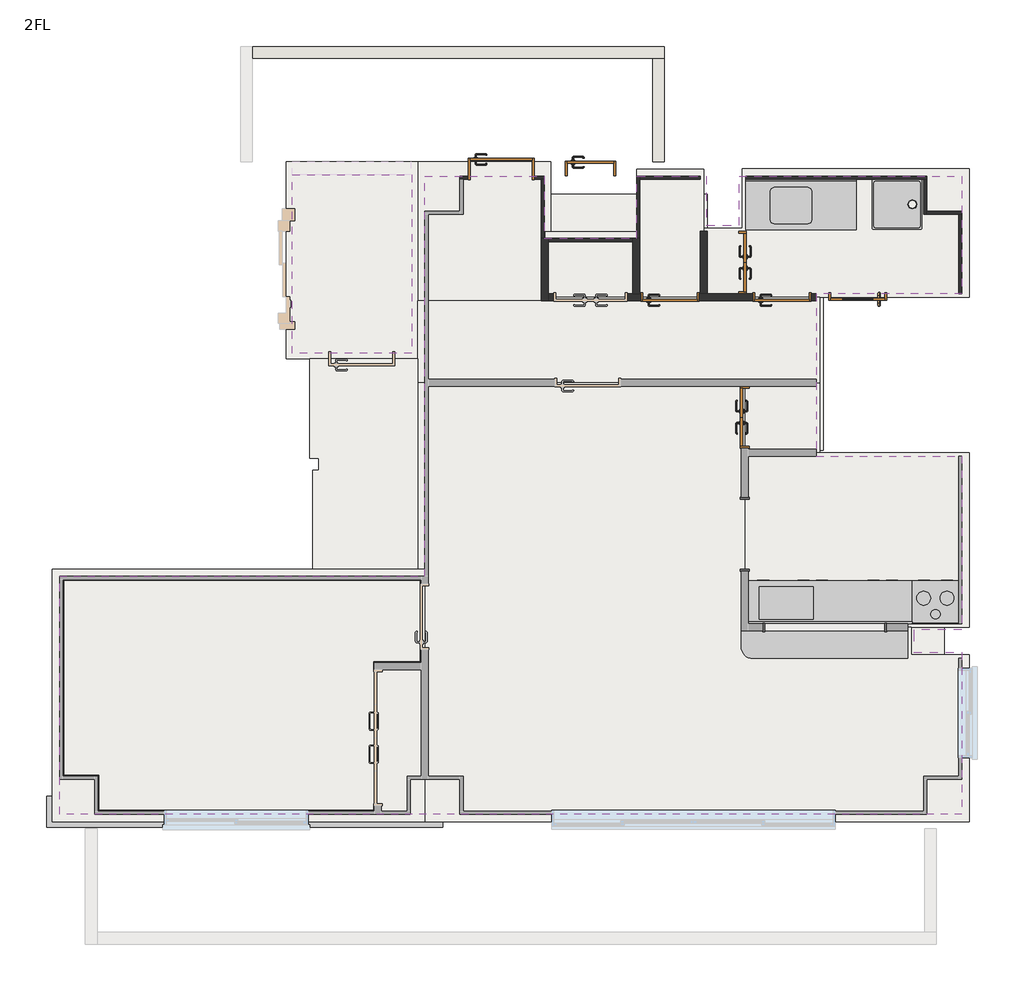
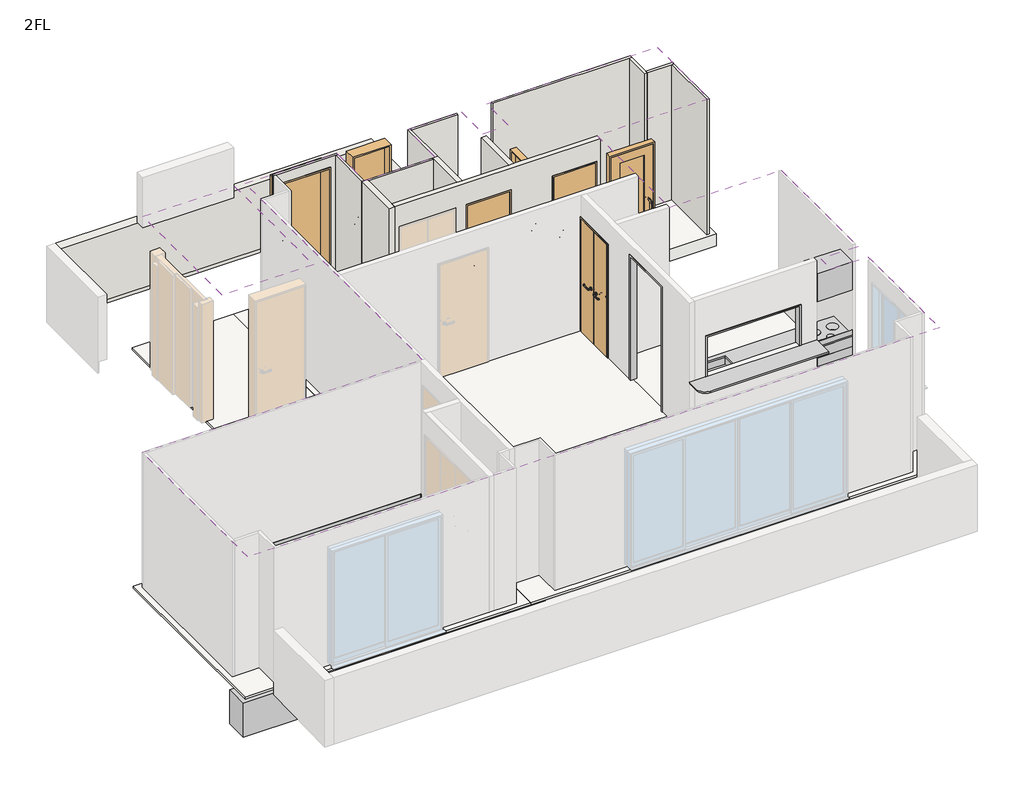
# One storey, part 2 of 2: 16 slabs, 15 walls, 10 proxies, 7 doors, 3 furniture elements, 2 coverings, 2 flow terminals, 1 beam.
"""IFC4 building model written with IfcOpenShell, lengths in millimetres."""

from ifc_helpers import new_model, si_unit, frame, origin, place, context, project, spatial, polyline, outline, extrude, faceted_brep, transform, mapped, element, save
from components import w1550h700_1b11893a, w900h2200_d33cf105, door_82001614, w750h2000_bb28a540, w750h2000_3b39e6d6, w750h2000_741aa240, w750h2000_0d8cda2a, w600h2200_8a8f31b7, w700h2000_46fb6d5c, w700h2000_2dbcf825, flow_terminal_9508bbe0, flow_terminal_4e89506a, furniture_a4760ea0, furniture_7bc7545d, furniture_1000mm_7691bfd8

model = new_model("IFC4")

# Units and contexts
model_context = context("Model", 3, world=origin())
ifc_project = project(units=[si_unit("LENGTHUNIT", "METRE", prefix="MILLI")], contexts=[model_context])

# Site, building, storey
site = spatial("IfcSite", under=ifc_project)
building = spatial("IfcBuilding", under=site)
storey = spatial("IfcBuildingStorey", under=building, Name="2FL", Elevation=3155.0)

# Beam
placement = place(None, origin())
element("IfcBeam", 1, ObjectType="コンクリート-長方形梁 : G1-400x600", at=placement, inside=storey, context=model_context, shape_type="Brep", body=[
    faceted_brep([(1318.2341012, -5001.3998484, 3120.0), (1318.2341012, -4851.3998484, 3120.0), (1318.2341012, -4601.3998484, 3120.0), (918.2341012, -4601.3998484, 3120.0), (-3381.7658988, -4601.3998484, 3120.0), (-3781.7658988, -4601.3998484, 3120.0), (-3781.7658988, -4851.3998484, 3120.0), (-3781.7658988, -5001.3998484, 3120.0), (1318.2341012, -5001.3998484, 2520.0), (-3781.7658988, -5001.3998484, 2520.0), (1318.2341012, -4601.3998484, 2520.0), (1318.2341012, -4851.3998484, 2520.0), (-3781.7658988, -4851.3998484, 2520.0), (-3781.7658988, -4601.3998484, 2520.0), (-3381.7658988, -4601.3998484, 2520.0), (918.2341012, -4601.3998484, 2520.0)], [[[0, 1, 2, 3, 4, 5, 6, 7]], [[8, 0, 7, 9]], [[10, 11, 8, 9, 12, 13, 14, 15]], [[2, 10, 15, 14, 13, 5, 4, 3]], [[2, 1, 0, 8, 11, 10]], [[7, 6, 5, 13, 12, 9]]]),
])

# Proxies
element("IfcBuildingElementProxy", 2, Name="幅木-標準", ObjectType="幅木-標準", at=placement, inside=storey, context=model_context, shape_type="SweptSolid", body=[
    extrude(outline(polyline([(-3111.7658988, -4781.3998484), (-3121.7658988, -4791.3998484), (-3121.7658988, -4341.3998484), (-3111.7658988, -4331.3998484), (-3111.7658988, -4781.3998484)])), frame((0.0, 0.0, 3155.0), z_axis=(0.0, 0.0, 1.0), x_axis=(1.0, 0.0, 0.0)), (0.0, 0.0, 1.0), 60.0),
])
element("IfcBuildingElementProxy", 3, Name="幅木-標準", ObjectType="幅木-標準", at=placement, inside=storey, context=model_context, shape_type="SweptSolid", body=[
    extrude(outline(polyline([(-3111.7658988, -4331.3998484), (-3121.7658988, -4341.3998484), (-3571.7658988, -4341.3998484), (-3561.7658988, -4331.3998484), (-3111.7658988, -4331.3998484)])), frame((0.0, 0.0, 3155.0), z_axis=(0.0, 0.0, 1.0), x_axis=(1.0, 0.0, 0.0)), (0.0, 0.0, 1.0), 60.0),
])
element("IfcBuildingElementProxy", 4, Name="幅木-標準", ObjectType="幅木-標準", at=placement, inside=storey, context=model_context, shape_type="SweptSolid", body=[
    extrude(outline(polyline([(-3561.7658988, -4331.3998484), (-3571.7658988, -4341.3998484), (-3571.7658988, -1811.3998484), (-3561.7658988, -1821.3998484), (-3561.7658988, -4331.3998484)])), frame((0.0, 0.0, 3155.0), z_axis=(0.0, 0.0, 1.0), x_axis=(1.0, 0.0, 0.0)), (0.0, 0.0, 1.0), 60.0),
])
element("IfcBuildingElementProxy", 5, Name="幅木-標準", ObjectType="幅木-標準", at=placement, inside=storey, context=model_context, shape_type="SweptSolid", body=[
    extrude(outline(polyline([(-3561.7658988, -1821.3998484), (-3571.7658988, -1811.3998484), (1038.2341012, -1811.3998484), (1028.2341012, -1821.3998484), (-3561.7658988, -1821.3998484)])), frame((0.0, 0.0, 3155.0), z_axis=(0.0, 0.0, 1.0), x_axis=(1.0, 0.0, 0.0)), (0.0, 0.0, 1.0), 60.0),
])
element("IfcBuildingElementProxy", 6, Name="幅木-標準", ObjectType="幅木-標準", at=placement, inside=storey, context=model_context, shape_type="SweptSolid", body=[
    extrude(outline(polyline([(1038.2341012, -2881.3998484), (1028.2341012, -2871.3998484), (1028.2341012, -2716.3998484), (1038.2341012, -2716.3998484), (1038.2341012, -2881.3998484)])), frame((0.0, 0.0, 3155.0), z_axis=(0.0, 0.0, 1.0), x_axis=(1.0, 0.0, 0.0)), (0.0, 0.0, 1.0), 60.0),
    extrude(outline(polyline([(1028.2341012, -1821.3998484), (1038.2341012, -1811.3998484), (1038.2341012, -1866.3998484), (1028.2341012, -1866.3998484), (1028.2341012, -1821.3998484)])), frame((0.0, 0.0, 3155.0), z_axis=(0.0, 0.0, 1.0), x_axis=(1.0, 0.0, 0.0)), (0.0, 0.0, 1.0), 60.0),
])
element("IfcBuildingElementProxy", 7, Name="幅木-標準", ObjectType="幅木-標準", at=placement, inside=storey, context=model_context, shape_type="SweptSolid", body=[
    extrude(outline(polyline([(428.2341012, -4781.3998484), (438.2341012, -4791.3998484), (-3121.7658988, -4791.3998484), (-3111.7658988, -4781.3998484), (428.2341012, -4781.3998484)])), frame((0.0, 0.0, 3155.0), z_axis=(0.0, 0.0, 1.0), x_axis=(1.0, 0.0, 0.0)), (0.0, 0.0, 1.0), 60.0),
])
element("IfcBuildingElementProxy", 8, Name="幅木-標準", ObjectType="幅木-標準", at=placement, inside=storey, context=model_context, shape_type="SweptSolid", body=[
    extrude(outline(polyline([(1028.2341012, -2871.3998484), (1038.2341012, -2881.3998484), (438.2341012, -2881.3998484), (428.2341012, -2871.3998484), (1028.2341012, -2871.3998484)])), frame((0.0, 0.0, 3155.0), z_axis=(0.0, 0.0, 1.0), x_axis=(1.0, 0.0, 0.0)), (0.0, 0.0, 1.0), 60.0),
])
element("IfcBuildingElementProxy", 9, Name="幅木-標準", ObjectType="幅木-標準", at=placement, inside=storey, context=model_context, shape_type="SweptSolid", body=[
    extrude(outline(polyline([(428.2341012, -2871.3998484), (438.2341012, -2881.3998484), (438.2341012, -2971.3998484), (428.2341012, -2971.3998484), (428.2341012, -2871.3998484)])), frame((0.0, 0.0, 3155.0), z_axis=(0.0, 0.0, 1.0), x_axis=(1.0, 0.0, 0.0)), (0.0, 0.0, 1.0), 60.0),
    extrude(outline(polyline([(438.2341012, -4791.3998484), (428.2341012, -4781.3998484), (428.2341012, -4721.3998484), (438.2341012, -4721.3998484), (438.2341012, -4791.3998484)])), frame((0.0, 0.0, 3155.0), z_axis=(0.0, 0.0, 1.0), x_axis=(1.0, 0.0, 0.0)), (0.0, 0.0, 1.0), 60.0),
])
w1550h700_shape = w1550h700_1b11893a(model_context)
element("IfcBuildingElementProxy", 10, Name="開口枠 - 鋼製 1 : W1550H700", ObjectType="開口枠 - 鋼製 1 : W1550H700", at=placement, inside=storey, context=model_context, shape_type="MappedRepresentation", body=[
    mapped(w1550h700_shape, transform((6358.2341012, -2426.3998484, 4155.0), x_axis=(-1.0, 0.0, 0.0), y_axis=(0.0, -1.0, 0.0), z_axis=(0.0, 0.0, 1.0))),
])
w900h2200_shape = w900h2200_d33cf105(model_context)
element("IfcBuildingElementProxy", 11, Name="開口枠 - 鋼製 1 : W900H2200", ObjectType="開口枠 - 鋼製 1 : W900H2200", at=placement, inside=storey, context=model_context, shape_type="MappedRepresentation", body=[
    mapped(w900h2200_shape, transform((5203.2341012, -1351.3998484, 3155.0), x_axis=(0.0, 1.0, 0.0), y_axis=(-1.0, 0.0, 0.0), z_axis=(0.0, 0.0, 1.0))),
])

# Coverings
element("IfcCovering", 12, ObjectType="化粧石膏ボード", at=placement, inside=storey, context=model_context, shape_type="SweptSolid", body=[
    extrude(outline(polyline([(4710.7341012, 3378.6001516), (4710.7341012, 2746.1001516), (5135.7341012, 2746.1001516), (5135.7341012, 3378.6001516), (7998.2341012, 3378.6001516), (7998.2341012, 1868.6001516), (6123.2341012, 1868.6001516), (6123.2341012, -221.3998484), (7998.2341012, -221.3998484), (7998.2341012, -2458.8998484), (7375.7341012, -2458.8998484), (7375.7341012, -2748.8998484), (7998.2341012, -2748.8998484), (7998.2341012, -4831.3998484), (-3611.7658988, -4831.3998484), (-3611.7658988, -1771.3998484), (1088.2341012, -1771.3998484), (1088.2341012, 3378.6001516), (2623.2341012, 3378.6001516), (2623.2341012, 2578.6001516), (3813.2341012, 2578.6001516), (3813.2341012, 3378.6001516), (4710.7341012, 3378.6001516)])), frame((0.0, 0.0, 5555.0), z_axis=(0.0, 0.0, 1.0), x_axis=(1.0, 0.0, 0.0)), (0.0, 0.0, 1.0), 9.5),
])
element("IfcCovering", 13, ObjectType="化粧石膏ボード", at=placement, inside=storey, context=model_context, shape_type="SweptSolid", body=[
    extrude(outline(polyline([(918.2341012, 3398.6001516), (918.2341012, 1098.6001516), (-616.7658988, 1098.6001516), (-616.7658988, 3398.6001516), (918.2341012, 3398.6001516)])), frame((0.0, 0.0, 5555.0), z_axis=(0.0, 0.0, 1.0), x_axis=(1.0, 0.0, 0.0)), (0.0, 0.0, 1.0), 9.5),
])

# Doors
door_shape = door_82001614(model_context)
element("IfcDoor", 14, ObjectType="片開き : w800h2200（玄関）", at=placement, inside=storey, context=model_context, shape_type="MappedRepresentation", body=[
    mapped(door_shape, transform((2068.2341012, 3471.1001516, 3155.0), x_axis=(1.0, 0.0, 0.0), y_axis=(0.0, 1.0, 0.0), z_axis=(0.0, 0.0, 1.0))),
])
w750h2000_shape = w750h2000_bb28a540(model_context)
w750h2000_2_shape = w750h2000_3b39e6d6(model_context)
element("IfcDoor", 15, ObjectType="両開き : W750H2000", at=placement, inside=storey, context=model_context, shape_type="MappedRepresentation", body=[
    mapped(w750h2000_shape, transform((5203.2341012, 278.6001516, 3155.0), x_axis=(0.0, 1.0, 0.0), y_axis=(-1.0, 0.0, 0.0), z_axis=(0.0, 0.0, 1.0))),
    mapped(w750h2000_2_shape, transform((5203.2341012, 278.6001516, 3155.0), x_axis=(0.0, 1.0, 0.0), y_axis=(-1.0, 0.0, 0.0), z_axis=(0.0, 0.0, 1.0))),
])
w750h2000_3_shape = w750h2000_741aa240(model_context)
w750h2000_4_shape = w750h2000_0d8cda2a(model_context)
element("IfcDoor", 16, ObjectType="両開き : W750H2000", at=placement, inside=storey, context=model_context, shape_type="MappedRepresentation", body=[
    mapped(w750h2000_3_shape, transform((5174.4841012, 2268.6001516, 3155.0), x_axis=(0.0, -1.0, 0.0), y_axis=(1.0, 0.0, 0.0), z_axis=(0.0, 0.0, 1.0))),
    mapped(w750h2000_4_shape, transform((5174.4841012, 2268.6001516, 3155.0), x_axis=(0.0, -1.0, 0.0), y_axis=(1.0, 0.0, 0.0), z_axis=(0.0, 0.0, 1.0))),
])
w600h2200_shape = w600h2200_8a8f31b7(model_context)
element("IfcDoor", 17, ObjectType="片開き : w600h2200", at=placement, inside=storey, context=model_context, shape_type="MappedRepresentation", body=[
    mapped(w600h2200_shape, transform((3218.2341012, 3481.1001516, 3155.0), x_axis=(1.0, 0.0, 0.0), y_axis=(0.0, 1.0, 0.0), z_axis=(0.0, 0.0, 1.0))),
])
w700h2000_shape = w700h2000_46fb6d5c(model_context)
element("IfcDoor", 18, ObjectType="片開き : w700h2000", at=placement, inside=storey, context=model_context, shape_type="MappedRepresentation", body=[
    mapped(w700h2000_shape, transform((4243.2341012, 1823.6001516, 3155.0), x_axis=(1.0, 0.0, 0.0), y_axis=(0.0, 1.0, 0.0), z_axis=(0.0, 0.0, 1.0))),
])
element("IfcDoor", 19, ObjectType="片開き : w700h2000", at=placement, inside=storey, context=model_context, shape_type="MappedRepresentation", body=[
    mapped(w700h2000_shape, transform((5683.2341012, 1823.6001516, 3155.0), x_axis=(1.0, 0.0, 0.0), y_axis=(0.0, 1.0, 0.0), z_axis=(0.0, 0.0, 1.0))),
])
w700h2000_2_shape = w700h2000_2dbcf825(model_context)
element("IfcDoor", 20, ObjectType="片開き_ガラス四方框 : w700h2000", at=placement, inside=storey, context=model_context, shape_type="MappedRepresentation", body=[
    mapped(w700h2000_2_shape, transform((6658.2341012, 1829.8501516, 3155.0), x_axis=(-1.0, 0.0, 0.0), y_axis=(0.0, -1.0, 0.0), z_axis=(0.0, 0.0, 1.0))),
])

# Flow terminals
flow_terminal_shape = flow_terminal_9508bbe0(model_context)
element("IfcFlowTerminal", 21, ObjectType="洗濯機パン : 洗濯機パン", at=placement, inside=storey, context=model_context, shape_type="MappedRepresentation", body=[
    mapped(flow_terminal_shape, transform((7163.2341012, 3018.6001516, 3155.0), x_axis=(1.0, 0.0, 0.0), y_axis=(0.0, 1.0, 0.0), z_axis=(0.0, 0.0, 1.0))),
])
flow_terminal_2_shape = flow_terminal_4e89506a(model_context)
element("IfcFlowTerminal", 22, ObjectType="システムキッチンIH : システムキッチンIH\u3000W2710", at=placement, inside=storey, context=model_context, shape_type="MappedRepresentation", body=[
    mapped(flow_terminal_2_shape, transform((7958.2341012, -2381.3998484, 3155.0), x_axis=(1.0, 0.0, 0.0), y_axis=(0.0, 1.0, 0.0), z_axis=(0.0, 0.0, 1.0))),
])

# Furniture
furniture_shape = furniture_a4760ea0(model_context)
element("IfcFurniture", 23, ObjectType="キッチンカウンター : キッチンカウンター", at=placement, inside=storey, context=model_context, shape_type="MappedRepresentation", body=[
    mapped(furniture_shape, transform((7298.2341012, -2381.3998484, 3155.0), x_axis=(1.0, 0.0, 0.0), y_axis=(0.0, 1.0, 0.0), z_axis=(0.0, 0.0, 1.0))),
])
furniture_2_shape = furniture_7bc7545d(model_context)
element("IfcFurniture", 24, ObjectType="洗面カウンタ 正方形 シンク開口 - 3D : 奥行き 600 mm", at=placement, inside=storey, context=model_context, shape_type="MappedRepresentation", body=[
    mapped(furniture_2_shape, transform((6481.9588962, 3338.6001516, 3155.0), x_axis=(1.0, 0.0, 0.0), y_axis=(0.0, 1.0, 0.0), z_axis=(0.0, 0.0, 1.0))),
])
furniture_1000mm_shape = furniture_1000mm_7691bfd8(model_context)
element("IfcFurniture", 25, ObjectType="化粧台 - 両開きドア シンク ユニット - 3D : 1000mm", at=placement, inside=storey, context=model_context, shape_type="MappedRepresentation", body=[
    mapped(furniture_1000mm_shape, transform((5906.9963962, 3338.6001516, 3155.0), x_axis=(1.0, 0.0, 0.0), y_axis=(0.0, 1.0, 0.0), z_axis=(0.0, 0.0, 1.0))),
])

# Slabs
element("IfcSlab", 26, ObjectType="磁器タイル", at=placement, inside=storey, context=model_context, shape_type="SweptSolid", body=[
    extrude(outline(polyline([(995.7341012, 1778.6001516), (995.7341012, 3563.6001516), (2708.2341012, 3563.6001516), (2708.2341012, 2673.6001516), (2628.2341012, 2673.6001516), (2628.2341012, 1778.6001516), (995.7341012, 1778.6001516)])), frame((0.0, 0.0, 3120.0), z_axis=(0.0, 0.0, 1.0), x_axis=(1.0, 0.0, 0.0)), (0.0, 0.0, 1.0), 35.0),
])
element("IfcSlab", 27, ObjectType="フローリング", at=placement, inside=storey, context=model_context, shape_type="Brep", body=[
    faceted_brep([(2628.2341012, 1778.6001516, 3120.0), (2628.2341012, 1823.6001516, 3120.0), (6168.2341012, 1823.6001516, 3120.0), (6168.2341012, 723.6001516, 3120.0), (993.2341012, 723.6001516, 3120.0), (993.2341012, 1031.1001516, 3120.0), (993.2341012, 1113.6001516, 3120.0), (993.2341012, 1778.6001516, 3120.0), (2628.2341012, 1778.6001516, 3155.0), (993.2341012, 1778.6001516, 3155.0), (993.2341012, 1113.6001516, 3155.0), (993.2341012, 1031.1001516, 3155.0), (993.2341012, 723.6001516, 3155.0), (6168.2341012, 723.6001516, 3155.0), (6168.2341012, 1823.6001516, 3155.0), (2628.2341012, 1823.6001516, 3155.0)], [[[0, 1, 2, 3, 4, 5, 6, 7]], [[8, 9, 10, 11, 12, 13, 14, 15]], [[3, 2, 14, 13]], [[4, 3, 13, 12]], [[7, 6, 5, 4, 12, 11, 10, 9]], [[0, 7, 9, 8]], [[1, 0, 8, 15]], [[2, 1, 15, 14]]]),
])
element("IfcSlab", 28, ObjectType="フローリング", at=placement, inside=storey, context=model_context, shape_type="SweptSolid", body=[
    extrude(outline(polyline([(3808.2341012, 1823.6001516), (3693.2341012, 1823.6001516), (2743.2341012, 1823.6001516), (2628.2341012, 1823.6001516), (2628.2341012, 2663.6001516), (3808.2341012, 2663.6001516), (3808.2341012, 1823.6001516)])), frame((0.0, 0.0, 3120.0), z_axis=(0.0, 0.0, 1.0), x_axis=(1.0, 0.0, 0.0)), (0.0, 0.0, 1.0), 35.0),
])
element("IfcSlab", 29, ObjectType="フローリング", at=placement, inside=storey, context=model_context, shape_type="SweptSolid", body=[
    extrude(outline(polyline([(4678.2341012, 1823.6001516), (3813.2341012, 1823.6001516), (3813.2341012, 3471.1001516), (4678.2341012, 3471.1001516), (4678.2341012, 1823.6001516)])), frame((0.0, 0.0, 3120.0), z_axis=(0.0, 0.0, 1.0), x_axis=(1.0, 0.0, 0.0)), (0.0, 0.0, 1.0), 35.0),
])
element("IfcSlab", 30, ObjectType="クッションフロアシート", at=placement, inside=storey, context=model_context, shape_type="SweptSolid", body=[
    extrude(outline(polyline([(4678.2341012, 2713.6001516), (5168.2341012, 2713.6001516), (5168.2341012, 3473.6001516), (8093.2341012, 3473.6001516), (8093.2341012, 1823.6001516), (4678.2341012, 1823.6001516), (4678.2341012, 2713.6001516)])), frame((0.0, 0.0, 2940.0), z_axis=(0.0, 0.0, 1.0), x_axis=(1.0, 0.0, 0.0)), (0.0, 0.0, 1.0), 215.0),
])
element("IfcSlab", 31, ObjectType="フローリング", at=placement, inside=storey, context=model_context, shape_type="Brep", body=[
    faceted_brep([(1083.2341012, -1676.3998484, 3120.0), (1083.2341012, -1751.3998484, 3120.0), (1083.2341012, -1771.3998484, 3120.0), (1083.2341012, -4926.3998484, 3120.0), (-3611.7658988, -4926.3998484, 3120.0), (-3706.7658988, -4926.3998484, 3120.0), (-3706.7658988, -1676.3998484, 3120.0), (-3631.7658988, -1676.3998484, 3120.0), (1083.2341012, -1676.3998484, 3155.0), (-3631.7658988, -1676.3998484, 3155.0), (-3706.7658988, -1676.3998484, 3155.0), (-3706.7658988, -4926.3998484, 3155.0), (-3611.7658988, -4926.3998484, 3155.0), (1083.2341012, -4926.3998484, 3155.0), (1083.2341012, -4831.3998484, 3155.0), (1083.2341012, -1771.3998484, 3155.0)], [[[0, 1, 2, 3, 4, 5, 6, 7]], [[8, 9, 10, 11, 12, 13, 14, 15]], [[3, 2, 1, 0, 8, 15, 14, 13]], [[5, 4, 3, 13, 12, 11]], [[6, 5, 11, 10]], [[0, 7, 6, 10, 9, 8]]]),
])
element("IfcSlab", 32, ObjectType="フローリング", at=placement, inside=storey, context=model_context, shape_type="SweptSolid", body=[
    extrude(outline(polyline([(993.2341012, 723.6001516), (5203.2341012, 723.6001516), (5203.2341012, -2426.3998484), (7343.2341012, -2426.3998484), (7343.2341012, -2781.3998484), (8093.2341012, -2781.3998484), (8093.2341012, -4926.3998484), (1083.2341012, -4926.3998484), (1083.2341012, -1785.1498484), (993.2341012, -1785.1498484), (993.2341012, 723.6001516)])), frame((0.0, 0.0, 3120.0), z_axis=(0.0, 0.0, 1.0), x_axis=(1.0, 0.0, 0.0)), (0.0, 0.0, 1.0), 35.0),
])
element("IfcSlab", 33, ObjectType="フローリング", at=placement, inside=storey, context=model_context, shape_type="SweptSolid", body=[
    extrude(outline(polyline([(8093.2341012, -2426.3998484), (5203.2341012, -2426.3998484), (5203.2341012, -176.3998484), (8093.2341012, -176.3998484), (8093.2341012, -2426.3998484)])), frame((0.0, 0.0, 3120.0), z_axis=(0.0, 0.0, 1.0), x_axis=(1.0, 0.0, 0.0)), (0.0, 0.0, 1.0), 35.0),
])
element("IfcSlab", 34, ObjectType="フローリング", at=placement, inside=storey, context=model_context, shape_type="Brep", body=[
    faceted_brep([(6168.2341012, -176.3998484, 3120.0), (6123.2341012, -176.3998484, 3120.0), (5203.2341012, -176.3998484, 3120.0), (5203.2341012, 723.6001516, 3120.0), (6123.2341012, 723.6001516, 3120.0), (6168.2341012, 723.6001516, 3120.0), (6168.2341012, -176.3998484, 3155.0), (6168.2341012, 723.6001516, 3155.0), (6123.2341012, 723.6001516, 3155.0), (5203.2341012, 723.6001516, 3155.0), (5203.2341012, -176.3998484, 3155.0), (6123.2341012, -176.3998484, 3155.0)], [[[0, 1, 2, 3, 4, 5]], [[6, 7, 8, 9, 10, 11]], [[2, 1, 0, 6, 11, 10]], [[3, 2, 10, 9]], [[5, 4, 3, 9, 8, 7]], [[0, 5, 7, 6]]]),
])
element("IfcSlab", 35, ObjectType="防滑性長尺塩ビシート", at=placement, inside=storey, context=model_context, shape_type="Brep", body=[
    faceted_brep([(993.2341012, -1676.3998484, 3120.0), (-356.7658988, -1676.3998484, 3120.0), (-356.7658988, -401.3998484, 3120.0), (-281.7658988, -401.3998484, 3120.0), (-281.7658988, -251.3998484, 3120.0), (-391.7658988, -251.3998484, 3120.0), (-391.7658988, 1031.1001516, 3120.0), (918.2341012, 1031.1001516, 3120.0), (993.2341012, 1031.1001516, 3120.0), (993.2341012, -1676.3998484, 3155.0), (993.2341012, 1031.1001516, 3155.0), (918.2341012, 1031.1001516, 3155.0), (-391.7658988, 1031.1001516, 3155.0), (-391.7658988, -251.3998484, 3155.0), (-281.7658988, -251.3998484, 3155.0), (-281.7658988, -401.3998484, 3155.0), (-356.7658988, -401.3998484, 3155.0), (-356.7658988, -1676.3998484, 3155.0)], [[[0, 1, 2, 3, 4, 5, 6, 7, 8]], [[9, 10, 11, 12, 13, 14, 15, 16, 17]], [[1, 0, 9, 17]], [[8, 7, 6, 12, 11, 10]], [[0, 8, 10, 9]], [[6, 5, 13, 12]], [[2, 1, 17, 16]], [[3, 2, 16, 15]], [[4, 3, 15, 14]], [[5, 4, 14, 13]]]),
])
element("IfcSlab", 36, ObjectType="磁器タイル", at=placement, inside=storey, context=model_context, shape_type="SweptSolid", body=[
    extrude(outline(polyline([(995.7341012, 1031.1001516), (-699.2658988, 1031.1001516), (-699.2658988, 3563.6001516), (995.7341012, 3563.6001516), (995.7341012, 1031.1001516)])), frame((0.0, 0.0, 3120.0), z_axis=(0.0, 0.0, 1.0), x_axis=(1.0, 0.0, 0.0)), (0.0, 0.0, 1.0), 35.0),
])
element("IfcSlab", 37, ObjectType="一般180mm", at=placement, inside=storey, context=model_context, shape_type="Brep", body=[
    faceted_brep([(918.2341012, -1751.3998484, 2940.0), (918.2341012, -4601.3998484, 2940.0), (-3381.7658988, -4601.3998484, 2940.0), (-3381.7658988, -1751.3998484, 2940.0), (918.2341012, -1751.3998484, 3120.0), (-281.7658988, -1751.3998484, 3120.0), (-3381.7658988, -1751.3998484, 3120.0), (-3381.7658988, -4601.3998484, 3120.0), (918.2341012, -4601.3998484, 3120.0)], [[[0, 1, 2, 3]], [[4, 5, 6, 7, 8]], [[1, 0, 4, 8]], [[2, 1, 8, 7]], [[3, 2, 7, 6]], [[0, 3, 6, 5, 4]]]),
])
element("IfcSlab", 38, ObjectType="一般180mm", at=placement, inside=storey, context=model_context, shape_type="SweptSolid", body=[
    extrude(outline(polyline([(918.2341012, 1298.6001516), (-481.7658988, 1298.6001516), (-481.7658988, 3148.6001516), (918.2341012, 3148.6001516), (918.2341012, 1298.6001516)])), frame((0.0, 0.0, 2940.0), z_axis=(0.0, 0.0, 1.0), x_axis=(1.0, 0.0, 0.0)), (0.0, 0.0, 1.0), 180.0),
])
element("IfcSlab", 39, ObjectType="一般180mm", at=placement, inside=storey, context=model_context, shape_type="SweptSolid", body=[
    extrude(outline(polyline([(7768.2341012, -481.3998484), (7768.2341012, -4601.3998484), (1318.2341012, -4601.3998484), (1318.2341012, -481.3998484), (7768.2341012, -481.3998484)])), frame((0.0, 0.0, 2940.0), z_axis=(0.0, 0.0, 1.0), x_axis=(1.0, 0.0, 0.0)), (0.0, 0.0, 1.0), 180.0),
])
element("IfcSlab", 40, ObjectType="一般180mm", at=placement, inside=storey, context=model_context, shape_type="Brep", body=[
    faceted_brep([(6213.2341012, -143.8998484, 2940.0), (2793.2341012, -143.8998484, 2940.0), (2643.2341012, -143.8998484, 2940.0), (1318.2341012, -143.8998484, 2940.0), (1318.2341012, 3148.6001516, 2940.0), (2643.2341012, 3148.6001516, 2940.0), (2793.2341012, 3148.6001516, 2940.0), (4363.2341012, 3148.6001516, 2940.0), (4723.2341012, 3148.6001516, 2940.0), (4723.2341012, 1868.6001516, 2940.0), (6213.2341012, 1868.6001516, 2940.0), (6213.2341012, -143.8998484, 3120.0), (6213.2341012, 1868.6001516, 3120.0), (4723.2341012, 1868.6001516, 3120.0), (4723.2341012, 3148.6001516, 3120.0), (2793.2341012, 3148.6001516, 3120.0), (2643.2341012, 3148.6001516, 3120.0), (1318.2341012, 3148.6001516, 3120.0), (1318.2341012, -143.8998484, 3120.0), (2643.2341012, -143.8998484, 3120.0), (2793.2341012, -143.8998484, 3120.0)], [[[0, 1, 2, 3, 4, 5, 6, 7, 8, 9, 10]], [[11, 12, 13, 14, 15, 16, 17, 18, 19, 20]], [[3, 2, 1, 0, 11, 20, 19, 18]], [[4, 3, 18, 17]], [[8, 7, 6, 5, 4, 17, 16, 15, 14]], [[9, 8, 14, 13]], [[10, 9, 13, 12]], [[0, 10, 12, 11]]]),
])
element("IfcSlab", 41, ObjectType="一般180mm", at=placement, inside=storey, context=model_context, shape_type="Brep", body=[
    faceted_brep([(918.2341012, -1601.3998484, 2940.0), (-356.7658988, -1601.3998484, 2940.0), (-356.7658988, -401.3998484, 2940.0), (-281.7658988, -401.3998484, 2940.0), (-281.7658988, -251.3998484, 2940.0), (-391.7658988, -251.3998484, 2940.0), (-391.7658988, 948.6001516, 2940.0), (918.2341012, 948.6001516, 2940.0), (918.2341012, -251.3998484, 2940.0), (918.2341012, -401.3998484, 2940.0), (918.2341012, -1601.3998484, 3120.0), (918.2341012, 948.6001516, 3120.0), (-391.7658988, 948.6001516, 3120.0), (-391.7658988, -251.3998484, 3120.0), (-281.7658988, -251.3998484, 3120.0), (-281.7658988, -401.3998484, 3120.0), (-356.7658988, -401.3998484, 3120.0), (-356.7658988, -1601.3998484, 3120.0)], [[[0, 1, 2, 3, 4, 5, 6, 7, 8, 9]], [[10, 11, 12, 13, 14, 15, 16, 17]], [[1, 0, 10, 17]], [[7, 6, 12, 11]], [[0, 9, 8, 7, 11, 10]], [[6, 5, 13, 12]], [[2, 1, 17, 16]], [[3, 2, 16, 15]], [[4, 3, 15, 14]], [[5, 4, 14, 13]]]),
])

# Walls
element("IfcWall", 42, ObjectType="標準-120mm+15mm+15mm", at=placement, inside=storey, context=model_context, shape_type="Brep", body=[
    faceted_brep([(4168.2341012, 4898.6001516, 4255.0), (4018.2341012, 4898.6001516, 4255.0), (-1131.7658988, 4898.6001516, 4255.0), (-1131.7658988, 4898.6001516, 3077.755102), (4153.2341012, 4898.6001516, 3077.755102), (4153.2341012, 4898.6001516, 2910.0), (4168.2341012, 4898.6001516, 2910.0), (4168.2341012, 5048.6001516, 2910.0), (-1131.7658988, 5048.6001516, 2910.0), (-1131.7658988, 5048.6001516, 4255.0), (4168.2341012, 5048.6001516, 4255.0), (4153.2341012, 5033.6001516, 2910.0), (-1131.7658988, 5033.6001516, 2910.0), (-1131.7658988, 5033.6001516, 3075.0), (4153.2341012, 5033.6001516, 3075.0)], [[[0, 1, 2, 3, 4, 5, 6]], [[7, 8, 9, 10]], [[8, 7, 6, 5, 11, 12]], [[2, 1, 0, 10, 9]], [[0, 6, 7, 10]], [[2, 9, 8, 12, 13, 3]], [[11, 14, 13, 12]], [[14, 11, 5, 4]], [[14, 4, 3, 13]]]),
])
element("IfcWall", 43, ObjectType="標準-120mm+15mm+15mm", at=placement, inside=storey, context=model_context, shape_type="Brep", body=[
    faceted_brep([(4018.2341012, 3563.6001516, 4255.0), (4018.2341012, 4898.6001516, 4255.0), (4018.2341012, 4898.6001516, 3077.755102), (4018.2341012, 3563.6001516, 3105.0), (4168.2341012, 3563.6001516, 2910.0), (4168.2341012, 4898.6001516, 2910.0), (4168.2341012, 4898.6001516, 4255.0), (4168.2341012, 3563.6001516, 4255.0), (4153.2341012, 3563.6001516, 2910.0), (4153.2341012, 4898.6001516, 2910.0), (4153.2341012, 4898.6001516, 3077.755102), (4153.2341012, 3563.6001516, 3105.0)], [[[0, 1, 2, 3]], [[4, 5, 6, 7]], [[5, 4, 8, 9]], [[1, 0, 7, 6]], [[1, 6, 5, 9, 10, 2]], [[7, 0, 3, 11, 8, 4]], [[11, 10, 9, 8]], [[10, 11, 3, 2]]]),
])
element("IfcWall", 44, ObjectType="標準-12.5mm+65ｍｍ+12.5mm", at=placement, inside=storey, context=model_context, shape_type="Brep", body=[
    faceted_brep([(3763.2341012, 2578.6001516, 3155.0), (3763.2341012, 1868.6001516, 3155.0), (3763.2341012, 1868.6001516, 5555.0), (3763.2341012, 2538.6001516, 5555.0), (3763.2341012, 2578.6001516, 5555.0), (3853.2341012, 2578.6001516, 3155.0), (3853.2341012, 2578.6001516, 5555.0), (3853.2341012, 1868.6001516, 5555.0), (3853.2341012, 1868.6001516, 3155.0)], [[[0, 1, 2, 3, 4]], [[5, 6, 7, 8]], [[1, 0, 5, 8]], [[4, 3, 2, 7, 6]], [[0, 4, 6, 5]], [[2, 1, 8, 7]]]),
])
element("IfcWall", 45, ObjectType="標準-12.5mm+65ｍｍ+12.5mm", at=placement, inside=storey, context=model_context, shape_type="Brep", body=[
    faceted_brep([(2583.2341012, 2578.6001516, 3155.0), (2583.2341012, 1778.6001516, 3155.0), (2583.2341012, 1778.6001516, 5555.0), (2583.2341012, 2578.6001516, 5555.0), (2673.2341012, 2578.6001516, 3155.0), (2673.2341012, 2578.6001516, 5555.0), (2673.2341012, 2538.6001516, 5555.0), (2673.2341012, 1868.6001516, 5555.0), (2673.2341012, 1778.6001516, 5555.0), (2673.2341012, 1778.6001516, 3155.0), (2673.2341012, 1868.6001516, 3155.0), (2595.7341012, 2578.6001516, 3155.0), (2623.2341012, 2578.6001516, 3155.0), (2623.2341012, 2578.6001516, 5555.0)], [[[0, 1, 2, 3]], [[4, 5, 6, 7, 8, 9, 10]], [[1, 0, 11, 12, 4, 10, 9]], [[3, 2, 8, 7, 6, 5, 13]], [[0, 3, 13, 5, 4, 12, 11]], [[2, 1, 9, 8]]]),
])
element("IfcWall", 46, ObjectType="標準-12.5mm+65ｍｍ+12.5mm", at=placement, inside=storey, context=model_context, shape_type="SweptSolid", body=[
    extrude(outline(polyline([(4723.2341012, 2668.6001516), (4723.2341012, 1868.6001516), (4633.2341012, 1868.6001516), (4633.2341012, 2668.6001516), (4723.2341012, 2668.6001516)])), frame((0.0, 0.0, 3155.0), z_axis=(0.0, 0.0, 1.0), x_axis=(1.0, 0.0, 0.0)), (0.0, 0.0, 1.0), 2400.0),
])
element("IfcWall", 47, ObjectType="標準-12.5mm+65ｍｍ+12.5mm", at=placement, inside=storey, context=model_context, shape_type="Brep", body=[
    faceted_brep([(3868.2341012, 1868.6001516, 3155.0), (3853.2341012, 1868.6001516, 3155.0), (3763.2341012, 1868.6001516, 3155.0), (3693.2341012, 1868.6001516, 3155.0), (3693.2341012, 1868.6001516, 5180.0), (2743.2341012, 1868.6001516, 5180.0), (2743.2341012, 1868.6001516, 3155.0), (2673.2341012, 1868.6001516, 3155.0), (2673.2341012, 1868.6001516, 5555.0), (3763.2341012, 1868.6001516, 5555.0), (3853.2341012, 1868.6001516, 5555.0), (4633.2341012, 1868.6001516, 5555.0), (4723.2341012, 1868.6001516, 5555.0), (5135.7341012, 1868.6001516, 5555.0), (5213.2341012, 1868.6001516, 5555.0), (6123.2341012, 1868.6001516, 5555.0), (6123.2341012, 1868.6001516, 3155.0), (6058.2341012, 1868.6001516, 3155.0), (6058.2341012, 1868.6001516, 5180.0), (5308.2341012, 1868.6001516, 5180.0), (5308.2341012, 1868.6001516, 3155.0), (4723.2341012, 1868.6001516, 3155.0), (4633.2341012, 1868.6001516, 3155.0), (4618.2341012, 1868.6001516, 3155.0), (4618.2341012, 1868.6001516, 5180.0), (3868.2341012, 1868.6001516, 5180.0), (3693.2341012, 1778.6001516, 5180.0), (3693.2341012, 1778.6001516, 3155.0), (3868.2341012, 1778.6001516, 3155.0), (3868.2341012, 1778.6001516, 5180.0), (4618.2341012, 1778.6001516, 5180.0), (4618.2341012, 1778.6001516, 3155.0), (5308.2341012, 1778.6001516, 3155.0), (5308.2341012, 1778.6001516, 5180.0), (6058.2341012, 1778.6001516, 5180.0), (6058.2341012, 1778.6001516, 3155.0), (6123.2341012, 1778.6001516, 3155.0), (6123.2341012, 1778.6001516, 5555.0), (2673.2341012, 1778.6001516, 5555.0), (2673.2341012, 1778.6001516, 3155.0), (2743.2341012, 1778.6001516, 3155.0), (2743.2341012, 1778.6001516, 5180.0)], [[[0, 1, 2, 3, 4, 5, 6, 7, 8, 9, 10, 11, 12, 13, 14, 15, 16, 17, 18, 19, 20, 21, 22, 23, 24, 25]], [[26, 27, 28, 29, 30, 31, 32, 33, 34, 35, 36, 37, 38, 39, 40, 41]], [[17, 16, 36, 35]], [[40, 39, 7, 6]], [[28, 27, 3, 2, 1, 0]], [[23, 22, 21, 20, 32, 31]], [[15, 14, 13, 12, 11, 10, 9, 8, 38, 37]], [[8, 7, 39, 38]], [[31, 30, 24, 23]], [[29, 28, 0, 25]], [[30, 29, 25, 24]], [[35, 34, 18, 17]], [[33, 32, 20, 19]], [[34, 33, 19, 18]], [[6, 5, 41, 40]], [[4, 3, 27, 26]], [[5, 4, 26, 41]], [[16, 15, 37, 36]]]),
])
element("IfcWall", 48, ObjectType="内壁-27.5mm+12.5", at=placement, inside=storey, context=model_context, shape_type="Brep", body=[
    faceted_brep([(2623.2341012, 3338.6001516, 5555.0), (2583.2341012, 3338.6001516, 5555.0), (1578.2341012, 3338.6001516, 5555.0), (1538.2341012, 3338.6001516, 5555.0), (1538.2341012, 3338.6001516, 3155.0), (1578.2341012, 3338.6001516, 3155.0), (1643.2341012, 3338.6001516, 3155.0), (1643.2341012, 3338.6001516, 5380.0), (2493.2341012, 3338.6001516, 5380.0), (2493.2341012, 3338.6001516, 3155.0), (2583.2341012, 3338.6001516, 3155.0), (2623.2341012, 3338.6001516, 3155.0), (1538.2341012, 3378.6001516, 5555.0), (2623.2341012, 3378.6001516, 5555.0), (2623.2341012, 3378.6001516, 3155.0), (2493.2341012, 3378.6001516, 3155.0), (2493.2341012, 3378.6001516, 5380.0), (1643.2341012, 3378.6001516, 5380.0), (1643.2341012, 3378.6001516, 3155.0), (1538.2341012, 3378.6001516, 3155.0), (1538.2341012, 3351.1001516, 3155.0), (1643.2341012, 3351.1001516, 3155.0), (2623.2341012, 3351.1001516, 3155.0), (2493.2341012, 3351.1001516, 3155.0)], [[[0, 1, 2, 3, 4, 5, 6, 7, 8, 9, 10, 11]], [[12, 13, 14, 15, 16, 17, 18, 19]], [[3, 2, 1, 0, 13, 12]], [[4, 20, 21, 6, 5]], [[22, 11, 10, 9, 23]], [[4, 3, 12, 19, 20]], [[20, 19, 18, 21]], [[14, 22, 23, 15]], [[0, 11, 22, 14, 13]], [[8, 16, 15, 23, 9]], [[17, 7, 6, 21, 18]], [[16, 8, 7, 17]]]),
])
element("IfcWall", 49, ObjectType="内壁-27.5mm+12.5", at=placement, inside=storey, context=model_context, shape_type="SweptSolid", body=[
    extrude(outline(polyline([(5555.0, 2583.2341012), (3155.0, 2583.2341012), (3155.0, 2595.7341012), (3155.0, 2623.2341012), (5555.0, 2623.2341012), (5555.0, 2583.2341012)])), frame((0.0, 2578.6001516, 0.0), z_axis=(0.0, 1.0, 0.0), x_axis=(0.0, 0.0, 1.0)), (0.0, 0.0, 1.0), 760.0),
])
element("IfcWall", 50, ObjectType="内壁-27.5mm+12.5", at=placement, inside=storey, context=model_context, shape_type="Brep", body=[
    faceted_brep([(2673.2341012, 2538.6001516, 3140.0), (3763.2341012, 2538.6001516, 3140.0), (3763.2341012, 2538.6001516, 5555.0), (2673.2341012, 2538.6001516, 5555.0), (2673.2341012, 2578.6001516, 3140.0), (2673.2341012, 2578.6001516, 3155.0), (2673.2341012, 2578.6001516, 5555.0), (3763.2341012, 2578.6001516, 5555.0), (3763.2341012, 2578.6001516, 3155.0), (3763.2341012, 2578.6001516, 3140.0), (2673.2341012, 2551.1001516, 3140.0), (3763.2341012, 2551.1001516, 3140.0)], [[[0, 1, 2, 3]], [[4, 5, 6, 7, 8, 9]], [[3, 2, 7, 6]], [[1, 0, 10, 11]], [[0, 3, 6, 5, 4, 10]], [[10, 4, 9, 11]], [[2, 1, 11, 9, 8, 7]]]),
])
element("IfcWall", 51, ObjectType="内壁-27.5mm+12.5", at=placement, inside=storey, context=model_context, shape_type="Brep", body=[
    faceted_brep([(3853.2341012, 2578.6001516, 3155.0), (3853.2341012, 3338.6001516, 3155.0), (3853.2341012, 3378.6001516, 3155.0), (3853.2341012, 3378.6001516, 5555.0), (3853.2341012, 3338.6001516, 5555.0), (3853.2341012, 2578.6001516, 5555.0), (3813.2341012, 2578.6001516, 3155.0), (3813.2341012, 2578.6001516, 5555.0), (3813.2341012, 3378.6001516, 5555.0), (3813.2341012, 3378.6001516, 3155.0), (3840.7341012, 3378.6001516, 3155.0), (3840.7341012, 2578.6001516, 3155.0)], [[[0, 1, 2, 3, 4, 5]], [[6, 7, 8, 9]], [[3, 2, 10, 9, 8]], [[5, 4, 3, 8, 7]], [[0, 5, 7, 6, 11]], [[2, 1, 0, 11, 10]], [[11, 6, 9, 10]]]),
])
element("IfcWall", 52, ObjectType="内壁-27.5mm+12.5", at=placement, inside=storey, context=model_context, shape_type="SweptSolid", body=[
    extrude(outline(polyline([(3338.6001516, 3155.0), (3338.6001516, 5555.0), (3378.6001516, 5555.0), (3378.6001516, 3155.0), (3351.1001516, 3155.0), (3338.6001516, 3155.0)])), frame((3853.2341012, 0.0, 0.0), z_axis=(1.0, 0.0, 0.0), x_axis=(0.0, 1.0, 0.0)), (0.0, 0.0, 1.0), 780.0),
])
element("IfcWall", 53, ObjectType="内壁-27.5mm+12.5", at=placement, inside=storey, context=model_context, shape_type="Brep", body=[
    faceted_brep([(5213.2341012, 3338.6001516, 3141.7), (6638.2341012, 3338.6001516, 3141.7), (6728.2341012, 3338.6001516, 3141.7), (7548.2341012, 3338.6001516, 3141.7), (7548.2341012, 3338.6001516, 3155.0), (7548.2341012, 3338.6001516, 5555.0), (7508.2341012, 3338.6001516, 5555.0), (6728.2341012, 3338.6001516, 5555.0), (6638.2341012, 3338.6001516, 5555.0), (5213.2341012, 3338.6001516, 5555.0), (5213.2341012, 3378.6001516, 3141.7), (5213.2341012, 3378.6001516, 5555.0), (7548.2341012, 3378.6001516, 5555.0), (7548.2341012, 3378.6001516, 3141.7), (6728.2341012, 3378.6001516, 3141.7), (6638.2341012, 3378.6001516, 3141.7), (5213.2341012, 3351.1001516, 3141.7), (6638.2341012, 3351.1001516, 3141.7), (6728.2341012, 3351.1001516, 3141.7), (7548.2341012, 3351.1001516, 3141.7)], [[[0, 1, 2, 3, 4, 5, 6, 7, 8, 9]], [[10, 11, 12, 13, 14, 15]], [[9, 8, 7, 6, 5, 12, 11]], [[3, 2, 1, 0, 16, 17, 18, 19]], [[0, 9, 11, 10, 16]], [[16, 10, 15, 14, 13, 19, 18, 17]], [[5, 4, 3, 19, 13, 12]]]),
])
element("IfcWall", 54, ObjectType="内壁-27.5mm+12.5", at=placement, inside=storey, context=model_context, shape_type="Brep", body=[
    faceted_brep([(7508.2341012, 3338.6001516, 3155.0), (7508.2341012, 2888.6001516, 3155.0), (7508.2341012, 2888.6001516, 5555.0), (7508.2341012, 3338.6001516, 5555.0), (7548.2341012, 3338.6001516, 3155.0), (7548.2341012, 3338.6001516, 5555.0), (7548.2341012, 2928.6001516, 5555.0), (7548.2341012, 2888.6001516, 5555.0), (7548.2341012, 2888.6001516, 3155.0), (7548.2341012, 2928.6001516, 3155.0), (7520.7341012, 3338.6001516, 3155.0), (7520.7341012, 2888.6001516, 3155.0)], [[[0, 1, 2, 3]], [[4, 5, 6, 7, 8, 9]], [[3, 2, 7, 6, 5]], [[1, 0, 10, 11]], [[0, 3, 5, 4, 10]], [[10, 4, 9, 8, 11]], [[2, 1, 11, 8, 7]]]),
])
element("IfcWall", 55, ObjectType="内壁-27.5mm+12.5", at=placement, inside=storey, context=model_context, shape_type="Brep", body=[
    faceted_brep([(7548.2341012, 2888.6001516, 3155.0), (7958.2341012, 2888.6001516, 3155.0), (7998.2341012, 2888.6001516, 3155.0), (7998.2341012, 2888.6001516, 5555.0), (7958.2341012, 2888.6001516, 5555.0), (7548.2341012, 2888.6001516, 5555.0), (7548.2341012, 2928.6001516, 3155.0), (7548.2341012, 2928.6001516, 5555.0), (7998.2341012, 2928.6001516, 5555.0), (7998.2341012, 2928.6001516, 3155.0), (7548.2341012, 2901.1001516, 3155.0), (7998.2341012, 2901.1001516, 3155.0)], [[[0, 1, 2, 3, 4, 5]], [[6, 7, 8, 9]], [[5, 4, 3, 8, 7]], [[2, 1, 0, 10, 11]], [[0, 5, 7, 6, 10]], [[10, 6, 9, 11]], [[3, 2, 11, 9, 8]]]),
])
element("IfcWall", 56, ObjectType="内壁-27.5mm+12.5", at=placement, inside=storey, context=model_context, shape_type="SweptSolid", body=[
    extrude(outline(polyline([(5555.0, 7958.2341012), (3155.0, 7958.2341012), (3155.0, 7970.7341012), (3155.0, 7998.2341012), (5555.0, 7998.2341012), (5555.0, 7958.2341012)])), frame((0.0, 1868.6001516, 0.0), z_axis=(0.0, 1.0, 0.0), x_axis=(0.0, 0.0, 1.0)), (0.0, 0.0, 1.0), 1020.0),
])

save(model, "model.ifc")
